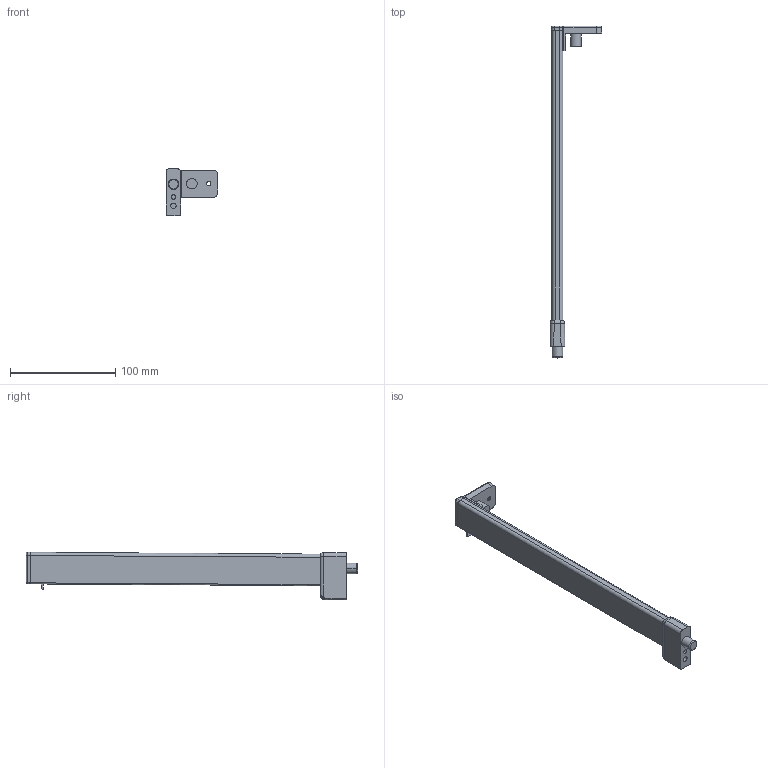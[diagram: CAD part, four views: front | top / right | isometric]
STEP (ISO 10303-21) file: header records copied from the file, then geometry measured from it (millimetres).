
FILE_DESCRIPTION (( 'STEP AP214' ), '1' );
FILE_NAME ('_2S_REL_7606_NL300_LI.step', '2010-07-01T14:41:43', ( 'grass' ), ( '' ), 'SwSTEP 2.0', 'SolidWorks 2009', '' );
FILE_SCHEMA (( 'AUTOMOTIVE_DESIGN' ));
Length unit declared in the file: millimetre
Products named in the file (1): _2S_REL_7606_NL300_LI
Bounding box: 49.25 x 315.5 x 45.4 mm (x, y, z)
Volume: 107451.9 mm3; surface area: 29811.6 mm2
Topology: 2 solids, 2 shells, 120 faces, 292 edges, 178 vertices
Faces by surface type: cylinder 58, plane 40, bspline 10, torus 6, cone 4, sphere 2
Entity records: 4528 total; most frequent: CARTESIAN_POINT 1803, ORIENTED_EDGE 580, DIRECTION 546, EDGE_CURVE 290, AXIS2_PLACEMENT_3D 203, VERTEX_POINT 178, VECTOR 140, LINE 140
